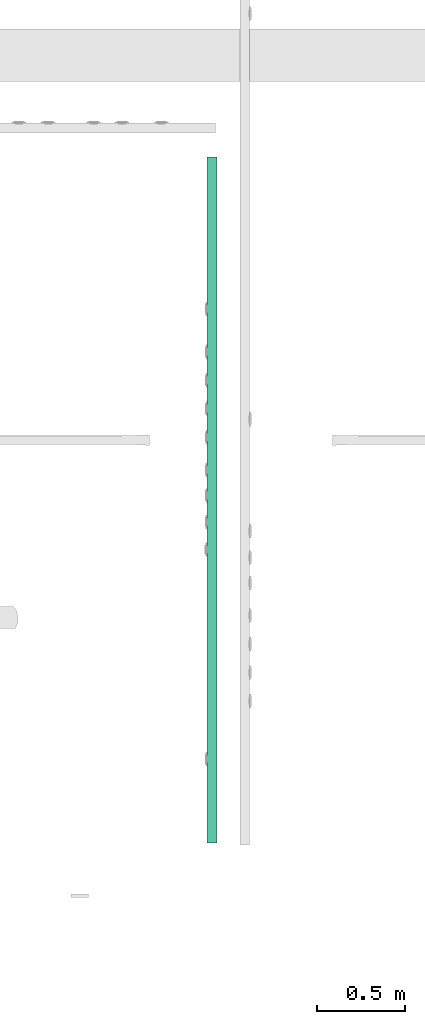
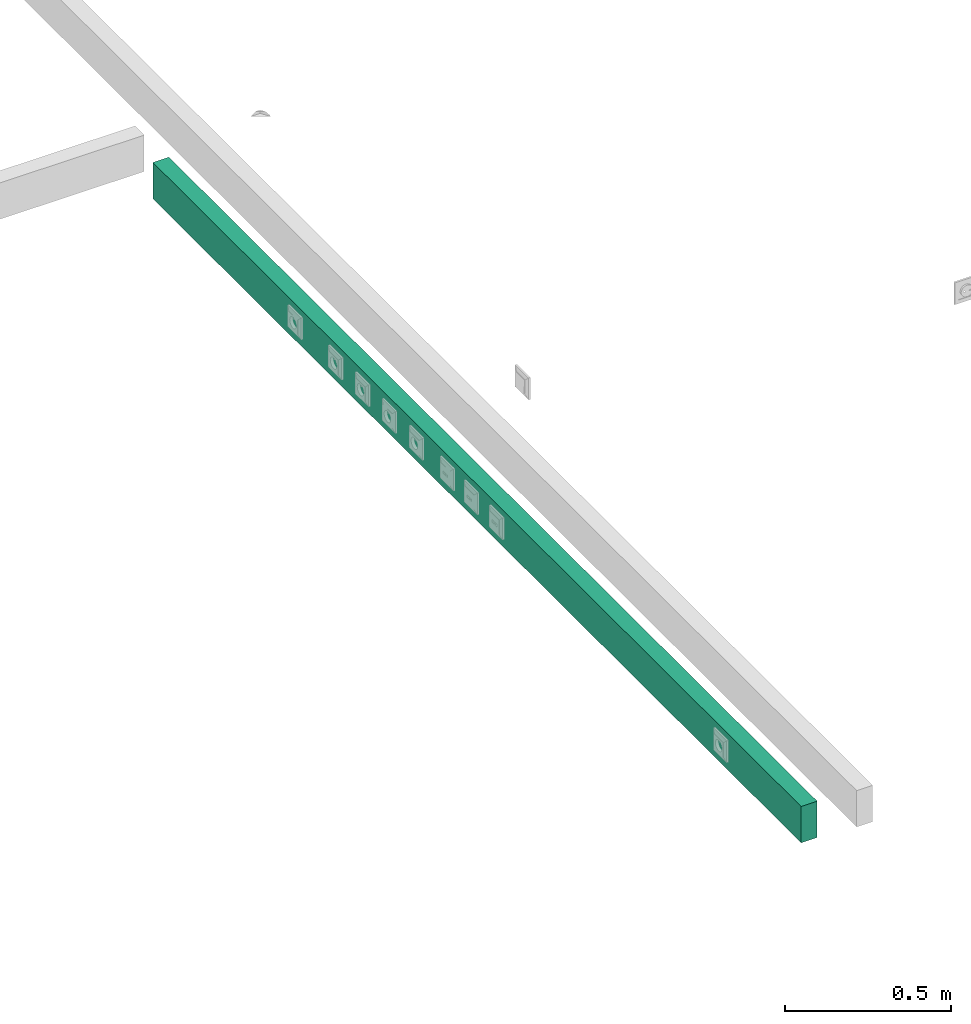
# One storey, part 17 of 166: 1 flow segment.
"""IFC2X3 building model written with IfcOpenShell, lengths in metres."""

import ifcopenshell
import ifcopenshell.guid

model = None  # the IFC model being written
_history = None  # IfcOwnerHistory: only IFC2X3 demands one
_inside = {}  # id of a spatial element -> (the spatial element, [elements in it])
_under = {}  # id of a project, library or spatial element -> (it, [spatial elements below it])
_declared = {}  # id of a project -> (the project, [libraries it declares])
_typed = {}  # id of a type object -> (the type object, [elements of that type])
_made_of = {}  # id of a material, layer set ... -> (it, [elements and type objects made of it])


def new_model(schema):
    """Start an empty IFC model of exactly this schema.

    Asked for "IFC4X3", IfcOpenShell would pick the latest addendum, in which some entities
    have other attributes; the version numbers below select the first issue.
    IFC2X3 requires an IfcOwnerHistory on every rooted entity: one is made here for all.
    """
    global model, _history
    if schema == "IFC4X3":
        model = ifcopenshell.file(schema_version=(4, 3, 0, 0))
    else:
        model = ifcopenshell.file(schema=schema)
    _inside.clear()
    _under.clear()
    _declared.clear()
    _typed.clear()
    _made_of.clear()
    _history = None
    if model.schema == "IFC2X3":
        org = make("IfcOrganization", Name="unknown")
        user = make(
            "IfcPersonAndOrganization",
            ThePerson=make("IfcPerson", FamilyName="unknown"),
            TheOrganization=org,
        )
        app = make(
            "IfcApplication",
            ApplicationDeveloper=org,
            Version="unknown",
            ApplicationFullName="unknown",
            ApplicationIdentifier="unknown",
        )
        _history = make(
            "IfcOwnerHistory",
            OwningUser=user,
            OwningApplication=app,
            ChangeAction="ADDED",
            CreationDate=0,
        )
    return model


def make(cls, **values):
    """One entity of the class cls with the attributes given. An attribute that is None is left unset."""
    return model.create_entity(
        cls, **{name: value for name, value in values.items() if value is not None}
    )


def entity(cls, *values):
    """Any entity or typed value of the class cls, its attributes in the order of the schema. None: left unset."""
    e = model.create_entity(cls)
    for i, value in enumerate(values):
        if value is not None:
            e[i] = value
    return e


def rooted(cls, **values):
    """An entity with a GlobalId (a new one), such as an element, a storey or a relation."""
    return make(cls, GlobalId=ifcopenshell.guid.new(), OwnerHistory=_history, **values)


def si_unit(unit_type, name, prefix=None):
    """IfcSIUnit, for example si_unit("LENGTHUNIT", "METRE", prefix="MILLI")."""
    return make("IfcSIUnit", UnitType=unit_type, Prefix=prefix, Name=name)


def converted_unit(unit_type, name, factor, base, dimensions=None, offset=None):
    """IfcConversionBasedUnit, such as the inch: factor (a typed value) times the base unit."""
    return make(
        "IfcConversionBasedUnit"
        if offset is None
        else "IfcConversionBasedUnitWithOffset",
        ConversionOffset=offset,
        Dimensions=None
        if dimensions is None
        else entity("IfcDimensionalExponents", *dimensions),
        UnitType=unit_type,
        Name=name,
        ConversionFactor=make(
            "IfcMeasureWithUnit", ValueComponent=factor, UnitComponent=base
        ),
    )


def derived_unit(unit_type, elements):
    """IfcDerivedUnit: a product of units, each with its exponent."""
    return make(
        "IfcDerivedUnit",
        Elements=[
            make("IfcDerivedUnitElement", Unit=unit, Exponent=power)
            for unit, power in elements
        ],
        UnitType=unit_type,
    )


def assignment(units):
    """IfcUnitAssignment: the units of a project."""
    return None if units is None else make("IfcUnitAssignment", Units=units)


def point(xyz):
    """IfcCartesianPoint."""
    return None if xyz is None else make("IfcCartesianPoint", Coordinates=xyz)


def direction(xyz):
    """IfcDirection."""
    return None if xyz is None else make("IfcDirection", DirectionRatios=xyz)


def frame(location, z_axis=None, x_axis=None):
    """IfcAxis2Placement3D, a coordinate frame: its origin and axes. An axis left out is left unset."""
    return make(
        "IfcAxis2Placement3D",
        Location=point(location),
        Axis=direction(z_axis),
        RefDirection=direction(x_axis),
    )


def frame_2d(location, x_axis=None):
    """IfcAxis2Placement2D, a coordinate frame in the plane: its origin and x axis."""
    return make(
        "IfcAxis2Placement2D", Location=point(location), RefDirection=direction(x_axis)
    )


def origin():
    """The frame at (0, 0, 0) with its axes left unset."""
    return frame((0.0, 0.0, 0.0))


def origin_2d_with_axis():
    """The frame at (0, 0) in the plane with the x axis (1, 0) written out."""
    return frame_2d((0.0, 0.0), x_axis=(1.0, 0.0))


def place(relative_to, where):
    """IfcLocalPlacement: puts the frame where relative to a parent placement (None: the world)."""
    return make(
        "IfcLocalPlacement", PlacementRelTo=relative_to, RelativePlacement=where
    )


def context(
    kind, dimensions, precision=None, world=None, true_north=None, identifier=None
):
    """IfcGeometricRepresentationContext, for example the 3D "Model" context."""
    return make(
        "IfcGeometricRepresentationContext",
        ContextIdentifier=identifier,
        ContextType=kind,
        CoordinateSpaceDimension=dimensions,
        Precision=precision,
        WorldCoordinateSystem=world,
        TrueNorth=true_north,
    )


def subcontext(parent, identifier, kind, view, scale=None):
    """IfcGeometricRepresentationSubContext, for example "Body" below "Model"."""
    return make(
        "IfcGeometricRepresentationSubContext",
        ContextIdentifier=identifier,
        ContextType=kind,
        ParentContext=parent,
        TargetScale=scale,
        TargetView=view,
    )


def project(units=None, contexts=None):
    """IfcProject with its units and contexts."""
    return rooted(
        "IfcProject",
        Name="project",
        RepresentationContexts=contexts,
        UnitsInContext=assignment(units),
    )


def spatial(cls, under=None, at=None, **own):
    """A site, building, storey or space (cls), placed at a placement, below another one or the project."""
    s = rooted(cls, ObjectPlacement=at, **own)
    if under is not None:
        _under.setdefault(under.id(), (under, []))[1].append(s)
    return s


def profile(cls, at=None, kind="AREA", **sizes):
    """A parametric profile (cls). Its sizes go by their IFC names, for example OverallWidth=200.0."""
    return make(cls, ProfileType=kind, Position=at, **sizes)


def rectangle(**sizes):
    """IfcRectangleProfileDef."""
    return profile("IfcRectangleProfileDef", **sizes)


def extrude(swept, where, along, depth):
    """IfcExtrudedAreaSolid: the profile swept, set in the frame where, extruded along a direction by depth."""
    return make(
        "IfcExtrudedAreaSolid",
        SweptArea=swept,
        Position=where,
        ExtrudedDirection=direction(along),
        Depth=depth,
    )


def shape(context_of_items, identifier, shape_type, items):
    """IfcShapeRepresentation: the items that make up one representation, for example the "Body"."""
    return make(
        "IfcShapeRepresentation",
        ContextOfItems=context_of_items,
        RepresentationIdentifier=identifier,
        RepresentationType=shape_type,
        Items=items,
    )


def made_of(thing, what):
    """Note that an element or type object is made of a material, layer set ...; save() writes the relation."""
    if what is not None:
        _made_of.setdefault(what.id(), (what, []))[1].append(thing)
    return thing


def type_object(cls, material=None, **own):
    """A type object (cls), such as IfcWallType, which elements share."""
    return made_of(rooted(cls, **own), material)


def element(
    cls,
    number,
    at=None,
    inside=None,
    cuts=None,
    type_object=None,
    material=None,
    context=None,
    identifier="Body",
    shape_type=None,
    held_by="IfcProductDefinitionShape",
    body=None,
    shapes=None,
    **own,
):
    """One element of the class cls, such as IfcWall. Its Tag is "e" and its number.

    at: its placement. inside: the storey or other place that contains it. cuts: it is an
    opening in that element (IfcRelVoidsElement). A single representation is given by context,
    identifier, shape_type and body (its items); several are given by shapes. held_by: the class
    of the entity that holds the representations. save() writes the other relations.
    """
    e = rooted(cls, Tag="e%d" % number, ObjectPlacement=at, **own)
    if body is not None:
        shapes = [shape(context, identifier, shape_type, body)]
    if shapes is not None:
        e.Representation = make(held_by, Representations=shapes)
    if inside is not None:
        _inside.setdefault(inside.id(), (inside, []))[1].append(e)
    if cuts is not None:
        rooted(
            "IfcRelVoidsElement", RelatingBuildingElement=cuts, RelatedOpeningElement=e
        )
    if type_object is not None:
        _typed.setdefault(type_object.id(), (type_object, []))[1].append(e)
    return made_of(e, material)


def aggregate(whole, parts):
    """IfcRelAggregates: a whole, such as a stair, and the parts it consists of."""
    return rooted("IfcRelAggregates", RelatingObject=whole, RelatedObjects=parts)


def save(model, path):
    """Write the relations noted so far, then the file.

    IfcRelAggregates (storeys below a building ...), IfcRelContainedInSpatialStructure (elements
    in a storey), IfcRelDefinesByType, IfcRelAssociatesMaterial and IfcRelDeclares: one each for
    every whole, place, type object, material and project.
    """
    for whole, parts in _under.values():
        aggregate(whole, parts)
    for where, things in _inside.values():
        rooted(
            "IfcRelContainedInSpatialStructure",
            RelatedElements=things,
            RelatingStructure=where,
        )
    for kind, things in _typed.values():
        rooted("IfcRelDefinesByType", RelatedObjects=things, RelatingType=kind)
    for what, things in _made_of.values():
        rooted("IfcRelAssociatesMaterial", RelatedObjects=things, RelatingMaterial=what)
    for by, libraries in _declared.values():
        rooted("IfcRelDeclares", RelatingContext=by, RelatedDefinitions=libraries)
    model.write(path)


model = new_model("IFC2X3")

# Units and contexts
model_context = context("Model", 3, precision=1e-05, world=origin(), true_north=direction((6.12303176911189e-17, 1.0)))
body_context = subcontext(model_context, "Body", "Model", "MODEL_VIEW")
ifc_project = project(units=[si_unit("LENGTHUNIT", "METRE"), si_unit("AREAUNIT", "SQUARE_METRE"), si_unit("VOLUMEUNIT", "CUBIC_METRE"), converted_unit("PLANEANGLEUNIT", "DEGREE", entity("IfcRatioMeasure", 0.0174532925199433), si_unit("PLANEANGLEUNIT", "RADIAN"), dimensions=[0, 0, 0, 0, 0, 0, 0]), si_unit("MASSUNIT", "GRAM", prefix="KILO"), derived_unit("MASSDENSITYUNIT", [(si_unit("MASSUNIT", "GRAM", prefix="KILO"), 1), (si_unit("LENGTHUNIT", "METRE"), -3)]), si_unit("TIMEUNIT", "SECOND"), si_unit("FREQUENCYUNIT", "HERTZ"), si_unit("THERMODYNAMICTEMPERATUREUNIT", "DEGREE_CELSIUS"), derived_unit("THERMALTRANSMITTANCEUNIT", [(si_unit("MASSUNIT", "GRAM", prefix="KILO"), 1), (si_unit("THERMODYNAMICTEMPERATUREUNIT", "KELVIN"), -1), (si_unit("TIMEUNIT", "SECOND"), -3)]), derived_unit("VOLUMETRICFLOWRATEUNIT", [(si_unit("LENGTHUNIT", "METRE"), 3), (si_unit("TIMEUNIT", "SECOND"), -1)]), si_unit("ELECTRICCURRENTUNIT", "AMPERE"), si_unit("ELECTRICVOLTAGEUNIT", "VOLT"), si_unit("POWERUNIT", "WATT"), si_unit("FORCEUNIT", "NEWTON"), si_unit("ILLUMINANCEUNIT", "LUX"), si_unit("LUMINOUSFLUXUNIT", "LUMEN"), si_unit("LUMINOUSINTENSITYUNIT", "CANDELA"), derived_unit("USERDEFINED", [(si_unit("MASSUNIT", "GRAM", prefix="KILO"), -1), (si_unit("LENGTHUNIT", "METRE"), -2), (si_unit("TIMEUNIT", "SECOND"), 3), (si_unit("LUMINOUSFLUXUNIT", "LUMEN"), 1)]), derived_unit("LINEARVELOCITYUNIT", [(si_unit("LENGTHUNIT", "METRE"), 1), (si_unit("TIMEUNIT", "SECOND"), -1)]), si_unit("PRESSUREUNIT", "PASCAL"), derived_unit("USERDEFINED", [(si_unit("LENGTHUNIT", "METRE"), -2), (si_unit("MASSUNIT", "GRAM", prefix="KILO"), 1), (si_unit("TIMEUNIT", "SECOND"), -2)])], contexts=[model_context])

# Site, building, storey
site_placement = place(None, origin())
site = spatial("IfcSite", under=ifc_project, at=site_placement, Name="Default", CompositionType="ELEMENT")
building_placement = place(site_placement, origin())
building = spatial("IfcBuilding", under=site, at=building_placement, CompositionType="ELEMENT")
storey_placement = place(building_placement, frame((0.0, 0.0, 4.27)))
storey = spatial("IfcBuildingStorey", under=building, at=storey_placement, Name="01", CompositionType="ELEMENT", Elevation=4.27)

# Flow segment
cable_carrier_segment_type = type_object("IfcCableCarrierSegmentType", Name="Cable Tray with Fittings:Goulottes de câbles indéfini_Goulottes de câbles", PredefinedType="NOTDEFINED")
flow_segment_placement = place(storey_placement, origin())
element("IfcFlowSegment", 1, at=flow_segment_placement, inside=storey, type_object=cable_carrier_segment_type, Name="Cable Tray with Fittings:Goulottes de câbles indéfini_Goulottes de câbles", ObjectType="Cable Tray with Fittings:Goulottes de câbles indéfini_Goulottes de câbles", context=body_context, shape_type="SweptSolid", body=[
    extrude(rectangle(XDim=3.91600000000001, YDim=0.0560000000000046, at=origin_2d_with_axis()), frame((65.3947436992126, -191.240069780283, 0.366), z_axis=(0.0, 0.0, 1.0), x_axis=(0.0, 1.0, 0.0)), (0.0, 0.0, 1.0), 0.134),
])

save(model, "model.ifc")
